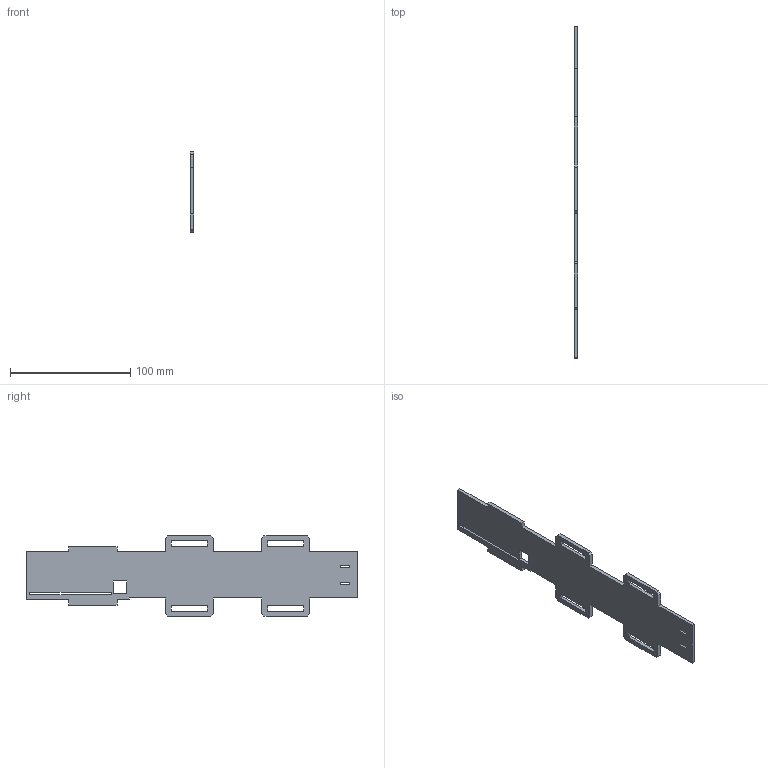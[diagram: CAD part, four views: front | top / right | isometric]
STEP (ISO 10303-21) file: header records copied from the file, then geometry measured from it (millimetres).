
FILE_DESCRIPTION(/* description */ ('STEP AP242 Edition 2','CAx-IF Rec.Pracs.---Representation and Presentation of Product Manufacturing Information (PMI)---4.0---2014-10-13','CAx-IF Rec.Pracs.---3D Tessellated Geometry---0.4---2014-09-14','2;1','CAx-IF Rec.Pracs.---User Defined Attributes---1.5---2016-08-15'),/* implementation_level */ '2;1');
FILE_NAME(/* name */ 'Enclosure - Side 1',/* time_stamp */ '2026-11-16T09:17:37Z',/* author */ (''),/* organization */ (''),/* preprocessor_version */ 'ST-DEVELOPER v20',/* originating_system */ 'ONSHAPE BY PTC INC, 1.223',/* authorisation */ ' ');
FILE_SCHEMA (('AP242_MANAGED_MODEL_BASED_3D_ENGINEERING_MIM_LF { 1 0 10303 442 3 1 4 }'));
Length unit declared in the file: metre
Products named in the file (1): Side 1
Bounding box: 3 x 275.5 x 66.5 mm (x, y, z)
Volume: 37430.3 mm3; surface area: 28697.2 mm2
Topology: 1 solids, 1 shells, 74 faces, 216 edges, 144 vertices
Faces by surface type: plane 74
Entity records: 2454 total; most frequent: CARTESIAN_POINT 435, ORIENTED_EDGE 432, DIRECTION 366, EDGE_CURVE 216, LINE 216, VECTOR 216, VERTEX_POINT 144, EDGE_LOOP 90
